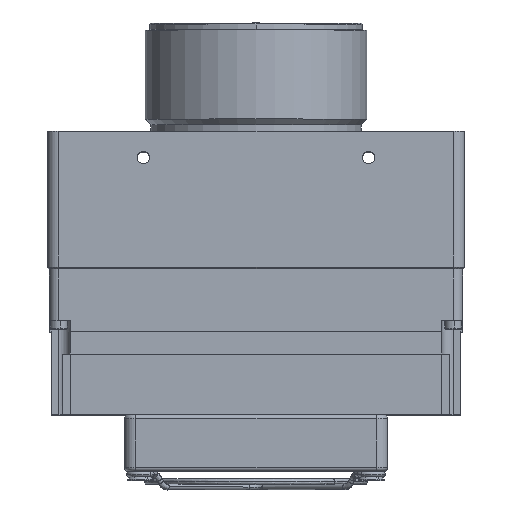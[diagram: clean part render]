
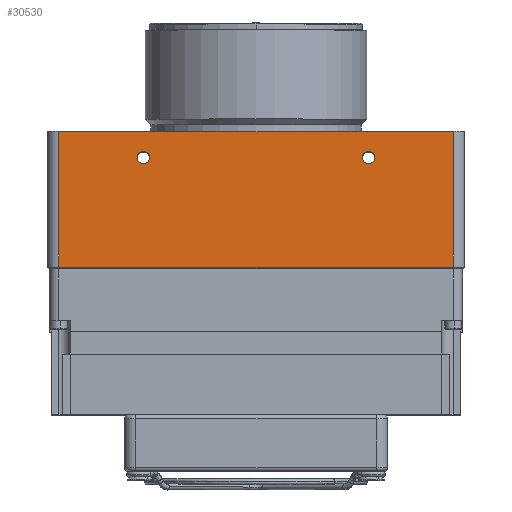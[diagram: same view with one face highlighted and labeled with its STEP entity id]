
A CAD part, top view. The second image highlights one B-rep face of the part: STEP entity #30530.
In plain terms, the highlighted planar face has unit normal (0, 0, 1).
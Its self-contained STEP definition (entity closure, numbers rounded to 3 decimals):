
#21 = FACE_BOUND ( 'NONE', #16655, .T. ) ;
#66 = EDGE_CURVE ( 'NONE', #24078, #26676, #605, .T. ) ;
#576 = PLANE ( 'NONE',  #32671 ) ;
#605 = LINE ( 'NONE', #30801, #16276 ) ;
#766 = VERTEX_POINT ( 'NONE', #11406 ) ;
#1015 = DIRECTION ( 'NONE',  ( 0., 1., 0. ) ) ;
#1264 = DIRECTION ( 'NONE',  ( 0., 1., 0. ) ) ;
#1498 = VERTEX_POINT ( 'NONE', #30392 ) ;
#2219 = CIRCLE ( 'NONE', #12595, 1.65 ) ;
#2727 = VECTOR ( 'NONE', #6708, 1000. ) ;
#2868 = VERTEX_POINT ( 'NONE', #33371 ) ;
#3737 = CARTESIAN_POINT ( 'NONE',  ( -62.5, 17.15, 55.5 ) ) ;
#3844 = CARTESIAN_POINT ( 'NONE',  ( 20., 46.33, 55.5 ) ) ;
#4133 = CARTESIAN_POINT ( 'NONE',  ( 20., 46.33, 55.5 ) ) ;
#5117 = VECTOR ( 'NONE', #25762, 1000. ) ;
#6708 = DIRECTION ( 'NONE',  ( 0., -1., 0. ) ) ;
#6770 = DIRECTION ( 'NONE',  ( 1., 0., 0. ) ) ;
#6946 = DIRECTION ( 'NONE',  ( 0., 0., 1. ) ) ;
#7344 = DIRECTION ( 'NONE',  ( 1., 0., 0. ) ) ;
#7430 = VERTEX_POINT ( 'NONE', #33342 ) ;
#8219 = EDGE_CURVE ( 'NONE', #26676, #10399, #28154, .T. ) ;
#8274 = AXIS2_PLACEMENT_3D ( 'NONE', #3844, #24203, #1264 ) ;
#10399 = VERTEX_POINT ( 'NONE', #16659 ) ;
#10745 = ORIENTED_EDGE ( 'NONE', *, *, #20144, .F. ) ;
#11406 = CARTESIAN_POINT ( 'NONE',  ( 20., 44.68, 55.5 ) ) ;
#12595 = AXIS2_PLACEMENT_3D ( 'NONE', #4133, #6946, #13104 ) ;
#12864 = CARTESIAN_POINT ( 'NONE',  ( -62.5, 17.15, 55.5 ) ) ;
#12880 = AXIS2_PLACEMENT_3D ( 'NONE', #32635, #36484, #36228 ) ;
#13104 = DIRECTION ( 'NONE',  ( 0., 1., 0. ) ) ;
#13673 = DIRECTION ( 'NONE',  ( -1., 0., 0. ) ) ;
#13846 = FACE_BOUND ( 'NONE', #23150, .T. ) ;
#15368 = CARTESIAN_POINT ( 'NONE',  ( -68., 17.15, 55.5 ) ) ;
#16276 = VECTOR ( 'NONE', #7344, 1000. ) ;
#16619 = EDGE_CURVE ( 'NONE', #7430, #24078, #18854, .T. ) ;
#16636 = FACE_OUTER_BOUND ( 'NONE', #21392, .T. ) ;
#16648 = CARTESIAN_POINT ( 'NONE',  ( -68., 53.33, 55.5 ) ) ;
#16655 = EDGE_LOOP ( 'NONE', ( #25642, #37635 ) ) ;
#16659 = CARTESIAN_POINT ( 'NONE',  ( 42.5, 53.33, 55.5 ) ) ;
#18682 = DIRECTION ( 'NONE',  ( 0., 0., 1. ) ) ;
#18806 = CARTESIAN_POINT ( 'NONE',  ( -40., 47.98, 55.5 ) ) ;
#18818 = VERTEX_POINT ( 'NONE', #18806 ) ;
#18854 = LINE ( 'NONE', #12864, #2727 ) ;
#20144 = EDGE_CURVE ( 'NONE', #18818, #2868, #30195, .T. ) ;
#21392 = EDGE_LOOP ( 'NONE', ( #21920, #33715, #21635, #34298 ) ) ;
#21635 = ORIENTED_EDGE ( 'NONE', *, *, #8219, .T. ) ;
#21826 = CIRCLE ( 'NONE', #8274, 1.65 ) ;
#21920 = ORIENTED_EDGE ( 'NONE', *, *, #16619, .T. ) ;
#22196 = AXIS2_PLACEMENT_3D ( 'NONE', #30013, #18682, #1015 ) ;
#23150 = EDGE_LOOP ( 'NONE', ( #10745, #29127 ) ) ;
#24037 = EDGE_CURVE ( 'NONE', #766, #1498, #2219, .T. ) ;
#24078 = VERTEX_POINT ( 'NONE', #3737 ) ;
#24203 = DIRECTION ( 'NONE',  ( 0., 0., 1. ) ) ;
#25642 = ORIENTED_EDGE ( 'NONE', *, *, #33827, .F. ) ;
#25688 = EDGE_CURVE ( 'NONE', #2868, #18818, #37606, .T. ) ;
#25762 = DIRECTION ( 'NONE',  ( 0., 1., 0. ) ) ;
#26636 = LINE ( 'NONE', #16648, #32598 ) ;
#26676 = VERTEX_POINT ( 'NONE', #31135 ) ;
#27264 = DIRECTION ( 'NONE',  ( 0., 0., -1. ) ) ;
#28154 = LINE ( 'NONE', #31203, #5117 ) ;
#29127 = ORIENTED_EDGE ( 'NONE', *, *, #25688, .F. ) ;
#30013 = CARTESIAN_POINT ( 'NONE',  ( -40., 46.33, 55.5 ) ) ;
#30195 = CIRCLE ( 'NONE', #22196, 1.65 ) ;
#30392 = CARTESIAN_POINT ( 'NONE',  ( 20., 47.98, 55.5 ) ) ;
#30530 = ADVANCED_FACE ( 'NONE', ( #21, #13846, #16636 ), #576, .F. ) ;
#30801 = CARTESIAN_POINT ( 'NONE',  ( 45., 17.15, 55.5 ) ) ;
#31135 = CARTESIAN_POINT ( 'NONE',  ( 42.5, 17.15, 55.5 ) ) ;
#31203 = CARTESIAN_POINT ( 'NONE',  ( 42.5, 17.15, 55.5 ) ) ;
#32598 = VECTOR ( 'NONE', #13673, 1000. ) ;
#32635 = CARTESIAN_POINT ( 'NONE',  ( -40., 46.33, 55.5 ) ) ;
#32671 = AXIS2_PLACEMENT_3D ( 'NONE', #15368, #27264, #6770 ) ;
#32850 = EDGE_CURVE ( 'NONE', #10399, #7430, #26636, .T. ) ;
#33342 = CARTESIAN_POINT ( 'NONE',  ( -62.5, 53.33, 55.5 ) ) ;
#33371 = CARTESIAN_POINT ( 'NONE',  ( -40., 44.68, 55.5 ) ) ;
#33715 = ORIENTED_EDGE ( 'NONE', *, *, #66, .T. ) ;
#33827 = EDGE_CURVE ( 'NONE', #1498, #766, #21826, .T. ) ;
#34298 = ORIENTED_EDGE ( 'NONE', *, *, #32850, .T. ) ;
#36228 = DIRECTION ( 'NONE',  ( 0., 1., 0. ) ) ;
#36484 = DIRECTION ( 'NONE',  ( 0., 0., 1. ) ) ;
#37606 = CIRCLE ( 'NONE', #12880, 1.65 ) ;
#37635 = ORIENTED_EDGE ( 'NONE', *, *, #24037, .F. ) ;
